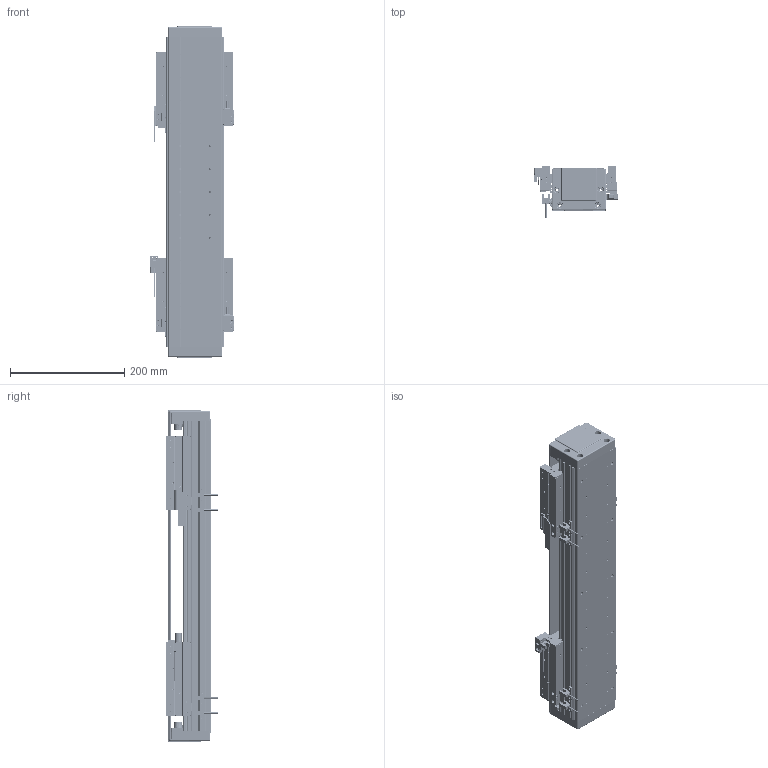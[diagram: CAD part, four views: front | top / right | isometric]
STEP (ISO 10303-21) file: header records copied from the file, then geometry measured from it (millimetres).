
FILE_DESCRIPTION (( 'STEP AP203' ), '1' );
FILE_NAME ('DA-B95-2-B15-T200-C010-0.2 直线电机.STEP', '2023-05-06T06:20:39', ( '微软用户' ), ( '微软中国' ), 'SwSTEP 2.0', 'SolidWorks 2019', '' );
FILE_SCHEMA (( 'CONFIG_CONTROL_DESIGN' ));
Length unit declared in the file: millimetre
Products named in the file (32): PM-T45 光电开关^DA-A95-B15-T-C010-0.2-N 直线电机; LMDK-2-R001-V5-L02-C1-F00，0.2M 读数头^DA-A95-B15-T-C010-0.2-N 直线电机_DMA-010-0.2; 葩璃 DA95-GT-T-00^IU-BU95-L 菁釱絳寢_DA95; B15 XD-U-02L ｴﾅﾕ､ｳﾟ^DA-A95-B15-T-C010-0.2-N ﾖｱﾏﾟｵ扈銈XD-U-02L; DA-A95-GYP-00 光电感应片^DA-A95-B15-T-C010-0.2-N 直线电机; 复件 DKW-KGZ-ZJ-00 中间光电开关支架^DA-A95-B15-T-C010-0.2-N 直线电机; DA95-HXJ-00 缓冲橡胶^DA-A95-B15-T-C010-0.2-N 直线电机; 复件 DKW-HXJ-JY-00 缓冲橡胶^DA-A95-B15-T-C010-0.2-N 直线电机; 复件 DKW-GYP-ZJ-00 中间光电感应片^DA-A95-B15-T-C010-0.2-N 直线电机; 复件 DA95-HK-GT-00 滑块钢轨^66245-BU95-V-00 一体化滑动台板; 66245-BU95-V 幗紩賑怢; 66245-BU95-V-00 珨极趙賑雄怢啣; 复件 DA95-B15-YB-A-00 压板A^66245-BU95-V 滚珠滑台; DA-B95-2-B15-T200-C010-0.2 眻盄萇儂; 复件 DA95-DK-00 挡块^66245-BU95-V 滚珠滑台; IU-BU95-L-00 菁釱_L540; 葩璃 DA95-B15-DP--B-00 菜えB^66245-BU95-V 幗紩賑怢; 葩璃 BKMA01-W060-TRL^DA-A95-B15-T-C010-0.2-N 眻盄萇儂; 复件 DA95-B15-YB-B-00 压板B^66245-BU95-V 滚珠滑台; 复件 六角薄螺母 M3^DA-A95-B15-T-C010-0.2-N 直线电机_GB_FASTENER_NUT_STNAB M3-C; DA95-DG-H-01^DA-A95-B15-T-C010-0.2-N 眻盄萇儂; 复件 DA95-DB-00  挡板^66245-BU95-V 滚珠滑台; 葩璃 DA95-B15-DP-A-00 菜えA^66245-BU95-V 幗紩賑怢; 葩璃 BKM015-W060-C1-TP-DA-0.2^DA-A95-B15-T-C010-0.2-N 眻盄萇儂; 复件 DA95-MFP-01 密封片^66245-BU95-V 滚珠滑台; 复件 66245-BU95-HT-V-01 滑动台板^66245-BU95-V-00 一体化滑动台板; 复件 纯铜油杯 6x6mm^66245-BU95-V 滚珠滑台; ｸｴｼ DA95-Txxx-002-00 ｸﾇｰ蘓DA-A95-B15-T-C010-0.2-N ﾖｱﾏﾟｵ扈銈T+30; 葩璃 PM-Y45^DA-A95-B15-T-C010-0.2-N 眻盄萇儂; IU-BU95-L 菁釱絳寢
Assembly tree (76 placements, depth 4):
  DA-B95-2-B15-T200-C010-0.2 眻盄萇儂
    IU-BU95-L 菁釱絳寢
      IU-BU95-L-00 菁釱_L540
      葩璃 DA95-GT-T-00^IU-BU95-L 菁釱絳寢_DA95  x2
    66245-BU95-V 幗紩賑怢
      66245-BU95-V-00 珨极趙賑雄怢啣
        复件 66245-BU95-HT-V-01 滑动台板^66245-BU95-V-00 一体化滑动台板
        复件 DA95-HK-GT-00 滑块钢轨^66245-BU95-V-00 一体化滑动台板  x2
      葩璃 DA95-B15-DP-A-00 菜えA^66245-BU95-V 幗紩賑怢
      复件 DA95-B15-YB-A-00 压板A^66245-BU95-V 滚珠滑台
      复件 DA95-B15-YB-B-00 压板B^66245-BU95-V 滚珠滑台
      复件 DA95-DB-00  挡板^66245-BU95-V 滚珠滑台  x4
      复件 DA95-DK-00 挡块^66245-BU95-V 滚珠滑台  x2
      复件 DA95-MFP-01 密封片^66245-BU95-V 滚珠滑台  x4
      复件 纯铜油杯 6x6mm^66245-BU95-V 滚珠滑台  x2
      葩璃 DA95-B15-DP--B-00 菜えB^66245-BU95-V 幗紩賑怢
    66245-BU95-V 幗紩賑怢
      66245-BU95-V-00 珨极趙賑雄怢啣
        复件 66245-BU95-HT-V-01 滑动台板^66245-BU95-V-00 一体化滑动台板
        复件 DA95-HK-GT-00 滑块钢轨^66245-BU95-V-00 一体化滑动台板  x2
      葩璃 DA95-B15-DP-A-00 菜えA^66245-BU95-V 幗紩賑怢
      复件 DA95-B15-YB-A-00 压板A^66245-BU95-V 滚珠滑台
      复件 DA95-B15-YB-B-00 压板B^66245-BU95-V 滚珠滑台
      复件 DA95-DB-00  挡板^66245-BU95-V 滚珠滑台  x4
      复件 DA95-DK-00 挡块^66245-BU95-V 滚珠滑台  x2
      复件 DA95-MFP-01 密封片^66245-BU95-V 滚珠滑台  x4
      复件 纯铜油杯 6x6mm^66245-BU95-V 滚珠滑台  x2
      葩璃 DA95-B15-DP--B-00 菜えB^66245-BU95-V 幗紩賑怢
    DA-A95-GYP-00 光电感应片^DA-A95-B15-T-C010-0.2-N 直线电机  x2
    LMDK-2-R001-V5-L02-C1-F00，0.2M 读数头^DA-A95-B15-T-C010-0.2-N 直线电机_DMA-010-0.2  x2
    复件 DKW-KGZ-ZJ-00 中间光电开关支架^DA-A95-B15-T-C010-0.2-N 直线电机
    葩璃 PM-Y45^DA-A95-B15-T-C010-0.2-N 眻盄萇儂
    复件 DKW-GYP-ZJ-00 中间光电感应片^DA-A95-B15-T-C010-0.2-N 直线电机
    葩璃 BKM015-W060-C1-TP-DA-0.2^DA-A95-B15-T-C010-0.2-N 眻盄萇儂  x2
    复件 DKW-HXJ-JY-00 缓冲橡胶^DA-A95-B15-T-C010-0.2-N 直线电机  x2
    PM-T45 光电开关^DA-A95-B15-T-C010-0.2-N 直线电机  x4
    B15 XD-U-02L ｴﾅﾕ､ｳﾟ^DA-A95-B15-T-C010-0.2-N ﾖｱﾏﾟｵ扈銈XD-U-02L
    DA95-DG-H-01^DA-A95-B15-T-C010-0.2-N 眻盄萇儂  x2
    ｸｴｼ DA95-Txxx-002-00 ｸﾇｰ蘓DA-A95-B15-T-C010-0.2-N ﾖｱﾏﾟｵ扈銈T+30
    DA95-HXJ-00 缓冲橡胶^DA-A95-B15-T-C010-0.2-N 直线电机  x4
    葩璃 BKMA01-W060-TRL^DA-A95-B15-T-C010-0.2-N 眻盄萇儂
    复件 六角薄螺母 M3^DA-A95-B15-T-C010-0.2-N 直线电机_GB_FASTENER_NUT_STNAB M3-C  x6
Bounding box: 145.4 x 90.2 x 580 mm (x, y, z)
Volume: 2965027.7 mm3; surface area: 887096.1 mm2
Topology: 71 solids, 89 shells, 4082 faces, 10360 edges, 6349 vertices
Faces by surface type: cylinder 1700, plane 1430, cone 544, bspline 344, torus 60, sphere 4
Entity records: 76313 total; most frequent: CARTESIAN_POINT 20692, ORIENTED_EDGE 10658, DIRECTION 10647, EDGE_CURVE 5329, AXIS2_PLACEMENT_3D 3951, VERTEX_POINT 3364, VECTOR 2745, LINE 2745
